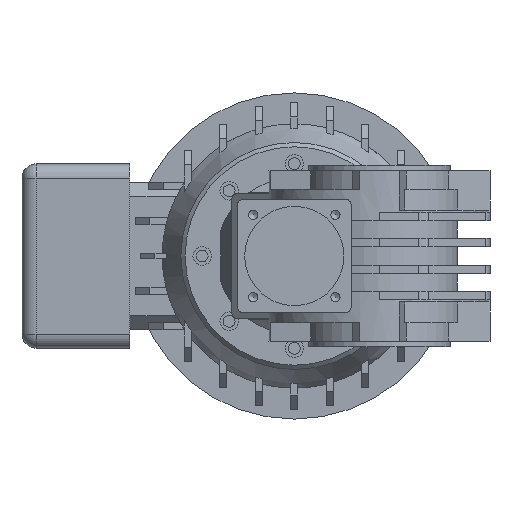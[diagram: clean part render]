
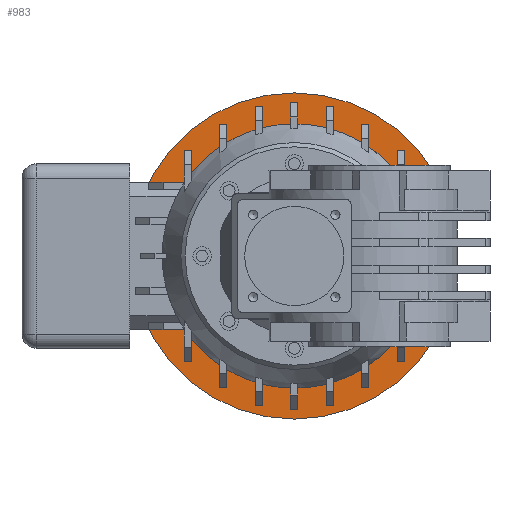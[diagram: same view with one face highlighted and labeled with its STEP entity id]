
A CAD part, left-side view. The second image highlights one B-rep face of the part: STEP entity #983.
In plain terms, the highlighted planar face has unit normal (-1, 0, 0).
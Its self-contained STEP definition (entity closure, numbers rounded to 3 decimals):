
#983 = ADVANCED_FACE( '', ( #2331, #2332 ), #2333, .F. );
#2331 = FACE_OUTER_BOUND( '', #4595, .T. );
#2332 = FACE_BOUND( '', #4596, .T. );
#2333 = PLANE( '', #4597 );
#4595 = EDGE_LOOP( '', ( #8232 ) );
#4596 = EDGE_LOOP( '', ( #8233 ) );
#4597 = AXIS2_PLACEMENT_3D( '', #8234, #8235, #8236 );
#8232 = ORIENTED_EDGE( '', *, *, #12150, .F. );
#8233 = ORIENTED_EDGE( '', *, *, #12076, .T. );
#8234 = CARTESIAN_POINT( '', ( 200.5, 30., 0. ) );
#8235 = DIRECTION( '', ( 1., 0., 0. ) );
#8236 = DIRECTION( '', ( 0., 0., 1. ) );
#12076 = EDGE_CURVE( '', #14568, #14568, #14569, .T. );
#12150 = EDGE_CURVE( '', #14686, #14686, #14687, .T. );
#14568 = VERTEX_POINT( '', #19176 );
#14569 = CIRCLE( '', #19177, 46.573 );
#14686 = VERTEX_POINT( '', #19324 );
#14687 = CIRCLE( '', #19325, 57.5 );
#19176 = CARTESIAN_POINT( '', ( 200.5, 76.573, 0. ) );
#19177 = AXIS2_PLACEMENT_3D( '', #21916, #21917, #21918 );
#19324 = CARTESIAN_POINT( '', ( 200.5, 87.5, 0. ) );
#19325 = AXIS2_PLACEMENT_3D( '', #22066, #22067, #22068 );
#21916 = CARTESIAN_POINT( '', ( 200.5, 30., 0. ) );
#21917 = DIRECTION( '', ( 1., 0., 0. ) );
#21918 = DIRECTION( '', ( 0., 1., 0. ) );
#22066 = CARTESIAN_POINT( '', ( 200.5, 30., 0. ) );
#22067 = DIRECTION( '', ( 1., 0., 0. ) );
#22068 = DIRECTION( '', ( 0., 1., 0. ) );
